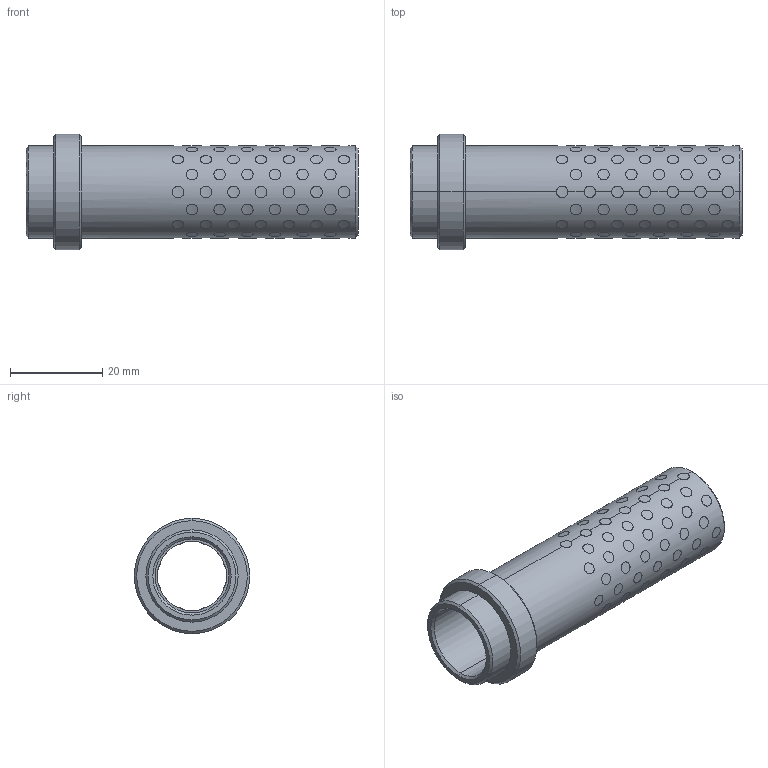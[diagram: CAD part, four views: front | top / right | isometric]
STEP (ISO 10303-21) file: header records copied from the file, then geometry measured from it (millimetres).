
FILE_DESCRIPTION((''),'2;1');
FILE_NAME('G31215066','2017-12-30T',('MANU'),(''),'PRO/ENGINEER BY PARAMETRIC TECHNOLOGY CORPORATION, 2012130','PRO/ENGINEER BY PARAMETRIC TECHNOLOGY CORPORATION, 2012130','');
FILE_SCHEMA(('CONFIG_CONTROL_DESIGN'));
Length unit declared in the file: millimetre
Products named in the file (1): G31215066
Bounding box: 72 x 25 x 25 mm (x, y, z)
Volume: 10163.3 mm3; surface area: 12702.5 mm2
Topology: 105 solids, 105 shells, 651 faces, 1386 edges, 920 vertices
Faces by surface type: cylinder 634, cone 12, plane 5
Entity records: 29734 total; most frequent: CARTESIAN_POINT 17061, ORIENTED_EDGE 2772, DIRECTION 1832, EDGE_CURVE 1386, VERTEX_POINT 920, B_SPLINE_CURVE_WITH_KNOTS 888, EDGE_LOOP 836, AXIS2_PLACEMENT_3D 683
